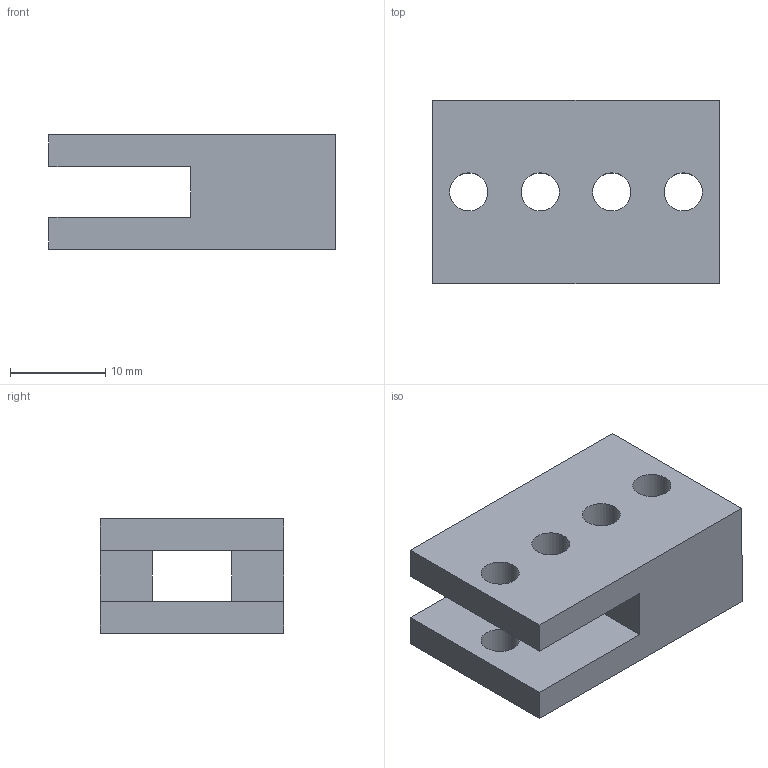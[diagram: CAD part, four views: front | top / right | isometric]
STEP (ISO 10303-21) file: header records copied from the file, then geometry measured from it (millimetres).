
FILE_DESCRIPTION(/* description */ (''),/* implementation_level */ '2;1');
FILE_NAME(/* name */ 'C:\Users\Diego\Downloads\9\Animalitos\Adaptador.stp',/* time_stamp */ '2019-07-10T16:12:52-04:00',/* author */ ('Diego'),/* organization */ (''),/* preprocessor_version */ 'ST-DEVELOPER v16.5',/* originating_system */ 'Autodesk Inventor 2017',/* authorisation */ '');
FILE_SCHEMA (('AUTOMOTIVE_DESIGN { 1 0 10303 214 3 1 1 }'));
Length unit declared in the file: millimetre
Products named in the file (1): Adaptador
Bounding box: 30 x 19.24 x 12 mm (x, y, z)
Volume: 4387.7 mm3; surface area: 3203.8 mm2
Topology: 1 solids, 1 shells, 23 faces, 66 edges, 44 vertices
Faces by surface type: plane 13, cylinder 10
Full cylindrical faces by diameter (mm): 4 x8
Entity records: 780 total; most frequent: DIRECTION 126, CARTESIAN_POINT 126, ORIENTED_EDGE 116, EDGE_CURVE 58, EDGE_LOOP 48, VERTEX_POINT 44, AXIS2_PLACEMENT_3D 44, LINE 38
